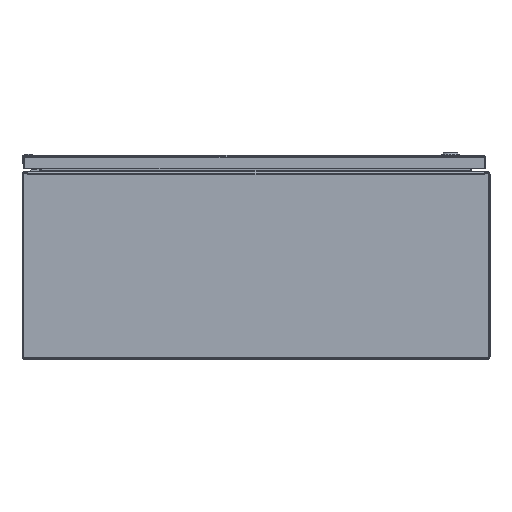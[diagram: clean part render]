
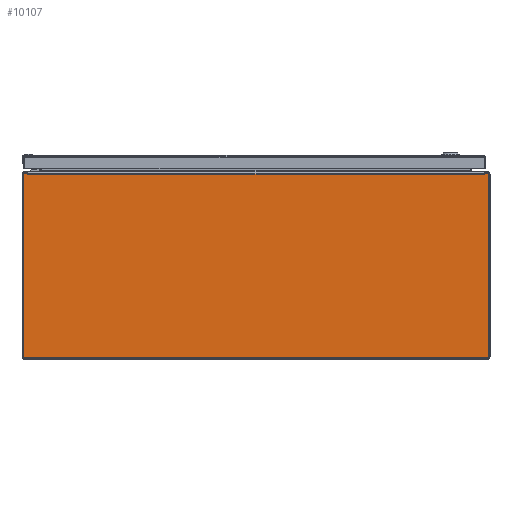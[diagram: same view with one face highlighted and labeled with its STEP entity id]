
A CAD part, front view. The second image highlights one B-rep face of the part: STEP entity #10107.
In plain terms, the highlighted planar face has unit normal (0, -1, 0).
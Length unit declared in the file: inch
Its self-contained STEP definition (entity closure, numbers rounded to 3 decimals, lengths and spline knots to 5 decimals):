
#8898=CARTESIAN_POINT('',(-14.915,0.,5.934));
#8899=DIRECTION('',(0.,-1.,0.));
#8900=DIRECTION('',(0.,0.,1.));
#8901=AXIS2_PLACEMENT_3D('',#8898,#8899,#8900);
#8906=DIRECTION('',(1.,0.,0.));
#8907=VECTOR('',#8906,0.2939);
#8908=CARTESIAN_POINT('',(-14.915,0.,5.994));
#8909=LINE('',#8908,#8907);
#8913=DIRECTION('',(1.,0.,0.));
#8914=VECTOR('',#8913,0.2939);
#8915=CARTESIAN_POINT('',(14.6211,0.,5.994));
#8916=LINE('',#8915,#8914);
#8920=CARTESIAN_POINT('',(14.915,0.,5.934));
#8921=DIRECTION('',(0.,-1.,0.));
#8922=DIRECTION('',(1.,0.,0.));
#8923=AXIS2_PLACEMENT_3D('',#8920,#8921,#8922);
#8928=DIRECTION('',(0.,0.,-1.));
#8929=VECTOR('',#8928,11.765);
#8930=CARTESIAN_POINT('',(14.975,0.,5.934));
#8931=LINE('',#8930,#8929);
#8935=CARTESIAN_POINT('',(14.85,0.,-5.831));
#8936=DIRECTION('',(0.,-1.,0.));
#8937=DIRECTION('',(0.,0.,-1.));
#8938=AXIS2_PLACEMENT_3D('',#8935,#8936,#8937);
#8943=DIRECTION('',(-1.,0.,0.));
#8944=VECTOR('',#8943,29.7);
#8945=CARTESIAN_POINT('',(14.85,0.,-5.956));
#8946=LINE('',#8945,#8944);
#8950=CARTESIAN_POINT('',(-14.85,0.,-5.831));
#8951=DIRECTION('',(0.,-1.,0.));
#8952=DIRECTION('',(-1.,0.,0.));
#8953=AXIS2_PLACEMENT_3D('',#8950,#8951,#8952);
#8958=DIRECTION('',(0.,0.,-1.));
#8959=VECTOR('',#8958,11.765);
#8960=CARTESIAN_POINT('',(-14.975,0.,5.934));
#8961=LINE('',#8960,#8959);
#9028=DIRECTION('',(0.,0.,-1.));
#9029=VECTOR('',#9028,0.125);
#9030=CARTESIAN_POINT('',(14.6211,0.,5.994));
#9031=LINE('',#9030,#9029);
#9616=DIRECTION('',(1.,0.,0.));
#9617=VECTOR('',#9616,29.2422);
#9618=CARTESIAN_POINT('',(-14.6211,0.,5.869));
#9619=LINE('',#9618,#9617);
#9653=DIRECTION('',(0.,0.,1.));
#9654=VECTOR('',#9653,0.125);
#9655=CARTESIAN_POINT('',(-14.6211,0.,5.869));
#9656=LINE('',#9655,#9654);
#9912=CARTESIAN_POINT('',(-14.6211,0.,5.869));
#9913=CARTESIAN_POINT('',(14.6211,0.,5.869));
#9914=VERTEX_POINT('',#9912);
#9915=VERTEX_POINT('',#9913);
#9996=CARTESIAN_POINT('',(-14.6211,0.,5.994));
#9998=VERTEX_POINT('',#9996);
#10000=CARTESIAN_POINT('',(14.6211,0.,5.994));
#10002=VERTEX_POINT('',#10000);
#10044=CARTESIAN_POINT('',(-14.915,0.,5.994));
#10045=CARTESIAN_POINT('',(-14.975,0.,5.934));
#10046=VERTEX_POINT('',#10044);
#10047=VERTEX_POINT('',#10045);
#10052=CARTESIAN_POINT('',(14.975,0.,5.934));
#10053=CARTESIAN_POINT('',(14.915,0.,5.994));
#10054=VERTEX_POINT('',#10052);
#10055=VERTEX_POINT('',#10053);
#10060=CARTESIAN_POINT('',(-14.975,0.,-5.831));
#10061=CARTESIAN_POINT('',(-14.85,0.,-5.956));
#10062=VERTEX_POINT('',#10060);
#10063=VERTEX_POINT('',#10061);
#10068=CARTESIAN_POINT('',(14.85,0.,-5.956));
#10069=CARTESIAN_POINT('',(14.975,0.,-5.831));
#10070=VERTEX_POINT('',#10068);
#10071=VERTEX_POINT('',#10069);
#10076=CARTESIAN_POINT('',(0.,0.,0.));
#10077=DIRECTION('',(0.,-1.,0.));
#10078=DIRECTION('',(-1.,0.,0.));
#10079=AXIS2_PLACEMENT_3D('',#10076,#10077,#10078);
#10080=PLANE('',#10079);
#10082=ORIENTED_EDGE('',*,*,#10081,.F.);
#10084=ORIENTED_EDGE('',*,*,#10083,.T.);
#10086=ORIENTED_EDGE('',*,*,#10085,.F.);
#10088=ORIENTED_EDGE('',*,*,#10087,.T.);
#10090=ORIENTED_EDGE('',*,*,#10089,.F.);
#10092=ORIENTED_EDGE('',*,*,#10091,.T.);
#10094=ORIENTED_EDGE('',*,*,#10093,.F.);
#10096=ORIENTED_EDGE('',*,*,#10095,.T.);
#10098=ORIENTED_EDGE('',*,*,#10097,.F.);
#10100=ORIENTED_EDGE('',*,*,#10099,.T.);
#10102=ORIENTED_EDGE('',*,*,#10101,.F.);
#10104=ORIENTED_EDGE('',*,*,#10103,.F.);
#10105=EDGE_LOOP('',(#10082,#10084,#10086,#10088,#10090,#10092,#10094,#10096,
#10098,#10100,#10102,#10104));
#10106=FACE_OUTER_BOUND('',#10105,.F.);
#8902=CIRCLE('',#8901,0.06);
#8924=CIRCLE('',#8923,0.06);
#8939=CIRCLE('',#8938,0.125);
#8954=CIRCLE('',#8953,0.125);
#10081=EDGE_CURVE('',#10046,#10047,#8902,.T.);
#10083=EDGE_CURVE('',#10046,#9998,#8909,.T.);
#10085=EDGE_CURVE('',#9914,#9998,#9656,.T.);
#10087=EDGE_CURVE('',#9914,#9915,#9619,.T.);
#10089=EDGE_CURVE('',#10002,#9915,#9031,.T.);
#10091=EDGE_CURVE('',#10002,#10055,#8916,.T.);
#10093=EDGE_CURVE('',#10054,#10055,#8924,.T.);
#10095=EDGE_CURVE('',#10054,#10071,#8931,.T.);
#10097=EDGE_CURVE('',#10070,#10071,#8939,.T.);
#10099=EDGE_CURVE('',#10070,#10063,#8946,.T.);
#10101=EDGE_CURVE('',#10062,#10063,#8954,.T.);
#10103=EDGE_CURVE('',#10047,#10062,#8961,.T.);
#10107=ADVANCED_FACE('',(#10106),#10080,.T.);
